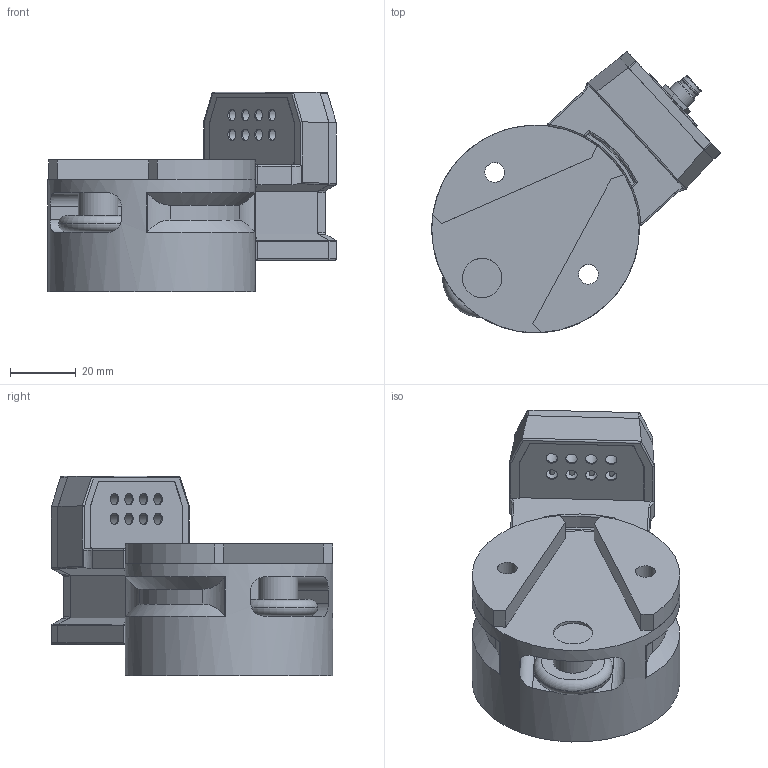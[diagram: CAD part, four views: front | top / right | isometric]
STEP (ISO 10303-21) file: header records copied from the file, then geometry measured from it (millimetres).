
FILE_DESCRIPTION(/* description */ (''),/* implementation_level */ '2;1');
FILE_NAME(/* name */ 'C:\SmartShift-step\step-januar-18\VE-del-EL-R7.stp',/* time_stamp */ '2019-01-22T19:38:33+01:00',/* author */ ('Buind AS'),/* organization */ (''),/* preprocessor_version */ 'ST-DEVELOPER v16.1',/* originating_system */ 'Autodesk Inventor 2016',/* authorisation */ '');
FILE_SCHEMA (('AUTOMOTIVE_DESIGN { 1 0 10303 214 3 1 1 }'));
Length unit declared in the file: millimetre
Products named in the file (8): V-DEL; topp; Part22; Part23-2; Part23-lokk-R-3; KONTAKT-HUS-V; L-skive; VE-del-EL-R7
Assembly tree (7 placements, depth 2):
  VE-del-EL-R7
    V-DEL
    topp
    Part22
    Part23-2
    Part23-lokk-R-3
    KONTAKT-HUS-V
    L-skive
Bounding box: 87.58 x 85.44 x 60.5 mm (x, y, z)
Volume: 116170.6 mm3; surface area: 47593 mm2
Topology: 10 solids, 11 shells, 524 faces, 1380 edges, 910 vertices
Faces by surface type: plane 265, cylinder 165, bspline 43, cone 24, sphere 14, torus 13
Full cylindrical faces by diameter (mm): 0.6 x8, 0.65 x8, 0.9 x8, 2.459 x2, 3.5 x12, 3.7 x4, 4.7 x8, 4.917 x4, 6 x4, 6.5 x1, 6.9 x2, 6.95 x1, 7.5 x1, 8 x1, 8.566 x2, 12 x5, 24 x1, 31.5 x1, 63 x1
Entity records: 16322 total; most frequent: CARTESIAN_POINT 4045, ORIENTED_EDGE 2430, DIRECTION 2395, EDGE_CURVE 1212, VERTEX_POINT 848, AXIS2_PLACEMENT_3D 837, LINE 721, VECTOR 721
